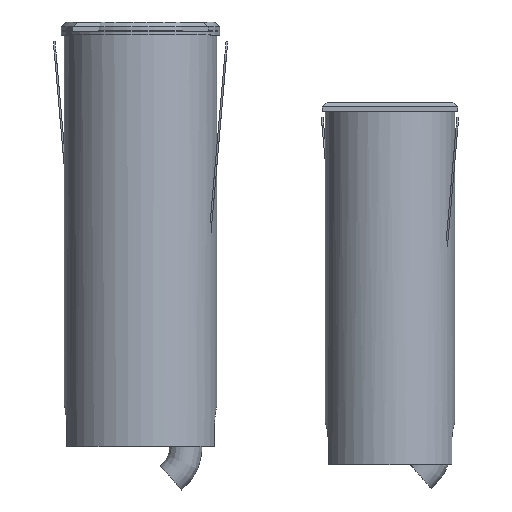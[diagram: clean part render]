
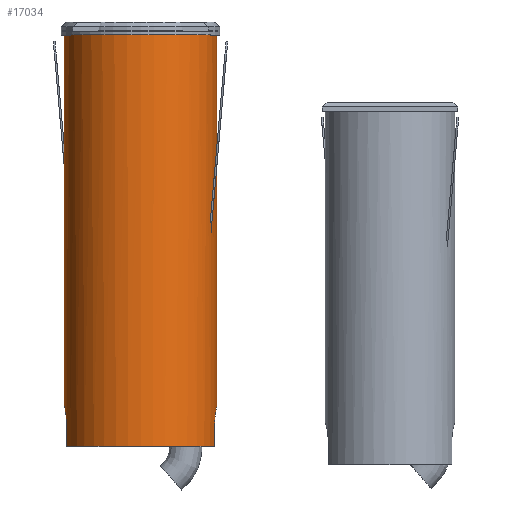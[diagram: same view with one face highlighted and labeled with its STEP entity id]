
A CAD part, top view. The second image highlights one B-rep face of the part: STEP entity #17034.
In plain terms, the highlighted cylindrical face has radius 13 mm (diameter 26 mm), a partial arc.
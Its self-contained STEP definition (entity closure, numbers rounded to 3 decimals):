
#16777=CARTESIAN_POINT('',(0.,17.,0.));
#16778=DIRECTION('',(0.,1.,0.));
#16779=DIRECTION('',(-1.,0.,0.));
#16780=AXIS2_PLACEMENT_3D('',#16777,#16778,#16779);
#16787=CARTESIAN_POINT('',(13.,-46.,0.));
#16788=CARTESIAN_POINT('',(13.,-46.,0.204));
#16789=CARTESIAN_POINT('',(12.991,-46.037,
0.611));
#16790=CARTESIAN_POINT('',(12.945,-46.224,
1.244));
#16791=CARTESIAN_POINT('',(12.877,-46.527,
1.812));
#16792=CARTESIAN_POINT('',(12.796,-46.934,
2.31));
#16793=CARTESIAN_POINT('',(12.714,-47.43,
2.718));
#16794=CARTESIAN_POINT('',(12.645,-47.999,
3.023));
#16795=CARTESIAN_POINT('',(12.598,-48.618,
3.209));
#16796=CARTESIAN_POINT('',(12.587,-49.037,3.25));
#16797=CARTESIAN_POINT('',(12.587,-49.25,3.25));
#16799=DIRECTION('',(0.,-1.,0.));
#16800=VECTOR('',#16799,3.75);
#16801=CARTESIAN_POINT('',(12.587,-49.25,3.25));
#16802=LINE('',#16801,#16800);
#16803=DIRECTION('',(0.,1.,0.));
#16804=VECTOR('',#16803,3.75);
#16805=CARTESIAN_POINT('',(-12.587,-53.,3.25));
#16806=LINE('',#16805,#16804);
#16807=CARTESIAN_POINT('',(-12.587,-49.25,3.25));
#16808=CARTESIAN_POINT('',(-12.587,-49.037,3.25));
#16809=CARTESIAN_POINT('',(-12.598,-48.618,
3.209));
#16810=CARTESIAN_POINT('',(-12.645,-47.998,
3.023));
#16811=CARTESIAN_POINT('',(-12.715,-47.429,
2.718));
#16812=CARTESIAN_POINT('',(-12.796,-46.933,
2.309));
#16813=CARTESIAN_POINT('',(-12.877,-46.527,
1.812));
#16814=CARTESIAN_POINT('',(-12.945,-46.224,
1.244));
#16815=CARTESIAN_POINT('',(-12.991,-46.037,
0.61));
#16816=CARTESIAN_POINT('',(-13.,-46.,0.204));
#16817=CARTESIAN_POINT('',(-13.,-46.,0.));
#16819=DIRECTION('',(0.,1.,0.));
#16820=VECTOR('',#16819,63.);
#16821=CARTESIAN_POINT('',(13.,-46.,0.));
#16822=LINE('',#16821,#16820);
#16823=DIRECTION('',(0.,-1.,0.));
#16824=VECTOR('',#16823,63.);
#16825=CARTESIAN_POINT('',(-13.,17.,0.));
#16826=LINE('',#16825,#16824);
#16827=CARTESIAN_POINT('',(-13.,-46.,0.));
#16902=CARTESIAN_POINT('',(0.,-53.,0.));
#16903=DIRECTION('',(0.,1.,0.));
#16904=DIRECTION('',(-0.968,0.,0.25));
#16905=AXIS2_PLACEMENT_3D('',#16902,#16903,#16904);
#16919=CARTESIAN_POINT('',(12.587,-49.25,3.25));
#16920=VERTEX_POINT('',#16919);
#16921=VERTEX_POINT('',#16787);
#16928=VERTEX_POINT('',#16827);
#16929=VERTEX_POINT('',#16807);
#16930=CARTESIAN_POINT('',(12.587,-53.,3.25));
#16931=VERTEX_POINT('',#16930);
#16932=CARTESIAN_POINT('',(-12.587,-53.,3.25));
#16933=VERTEX_POINT('',#16932);
#16946=CARTESIAN_POINT('',(-13.,17.,0.));
#16947=CARTESIAN_POINT('',(13.,17.,0.));
#16948=VERTEX_POINT('',#16946);
#16949=VERTEX_POINT('',#16947);
#17012=CARTESIAN_POINT('',(0.,2.65,0.));
#17013=DIRECTION('',(0.,-1.,0.));
#17014=DIRECTION('',(-1.,0.,0.));
#17015=AXIS2_PLACEMENT_3D('',#17012,#17013,#17014);
#17016=CYLINDRICAL_SURFACE('',#17015,13.);
#17018=ORIENTED_EDGE('',*,*,#17017,.F.);
#17019=ORIENTED_EDGE('',*,*,#17001,.T.);
#17021=ORIENTED_EDGE('',*,*,#17020,.F.);
#17023=ORIENTED_EDGE('',*,*,#17022,.T.);
#17025=ORIENTED_EDGE('',*,*,#17024,.T.);
#17027=ORIENTED_EDGE('',*,*,#17026,.F.);
#17029=ORIENTED_EDGE('',*,*,#17028,.T.);
#17031=ORIENTED_EDGE('',*,*,#17030,.T.);
#17032=EDGE_LOOP('',(#17018,#17019,#17021,#17023,#17025,#17027,#17029,#17031));
#17033=FACE_OUTER_BOUND('',#17032,.F.);
#17034=ADVANCED_FACE('',(#17033),#17016,.T.);
#16781=CIRCLE('',#16780,13.);
#16798=B_SPLINE_CURVE_WITH_KNOTS('',3,(#16787,#16788,#16789,#16790,#16791,
#16792,#16793,#16794,#16795,#16796,#16797),.UNSPECIFIED.,.F.,.F.,(4,1,1,1,1,1,1,
1,4),(0.,0.125,0.25,0.375,0.5,0.625,0.75,0.875,1.),
.UNSPECIFIED.);
#16818=B_SPLINE_CURVE_WITH_KNOTS('',3,(#16807,#16808,#16809,#16810,#16811,
#16812,#16813,#16814,#16815,#16816,#16817),.UNSPECIFIED.,.F.,.F.,(4,1,1,1,1,1,1,
1,4),(0.,0.125,0.25,0.375,0.5,0.625,0.75,0.875,1.),
.UNSPECIFIED.);
#16906=CIRCLE('',#16905,13.);
#17001=EDGE_CURVE('',#16948,#16949,#16781,.T.);
#17017=EDGE_CURVE('',#16948,#16928,#16826,.T.);
#17020=EDGE_CURVE('',#16921,#16949,#16822,.T.);
#17022=EDGE_CURVE('',#16921,#16920,#16798,.T.);
#17024=EDGE_CURVE('',#16920,#16931,#16802,.T.);
#17026=EDGE_CURVE('',#16933,#16931,#16906,.T.);
#17028=EDGE_CURVE('',#16933,#16929,#16806,.T.);
#17030=EDGE_CURVE('',#16929,#16928,#16818,.T.);
